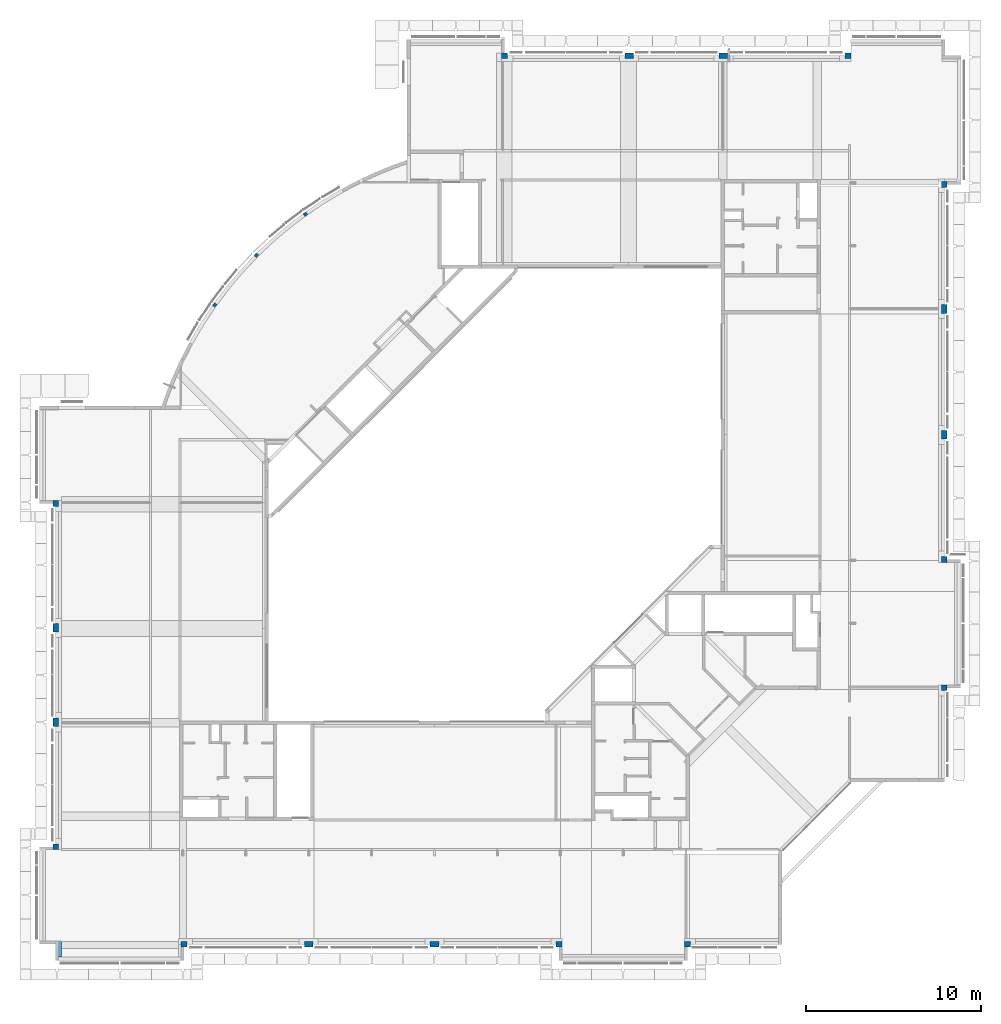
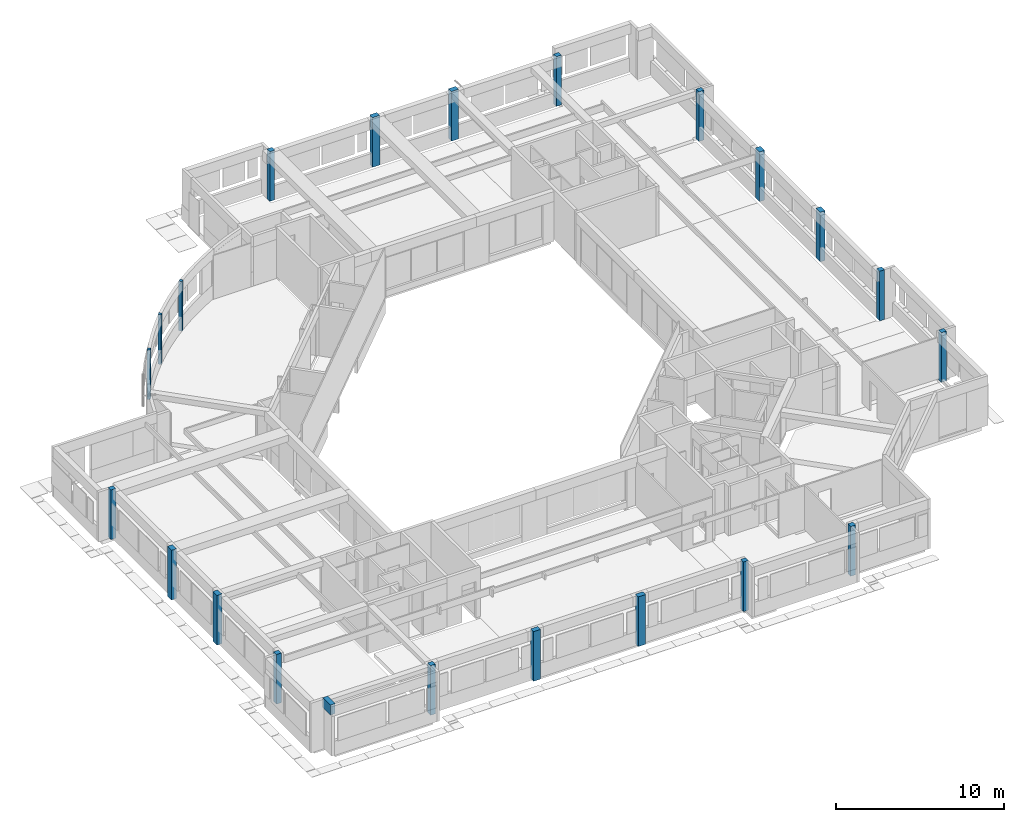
# One storey, part 1 of 26: 21 columns, 1 beam.
"""IFC4X3_ADD2 building model written with IfcOpenShell, lengths in millimetres."""

from ifc_helpers import new_model, si_unit, direction, frame, origin_with_axes, origin_2d_with_axis, place, context, subcontext, project, spatial, rectangle, extrude, source, transform, mapped, material, type_object, type_shapes, element, save


model = new_model("IFC4X3_ADD2")

# Units and contexts
model_context = context("Model", 3, precision=1e-05, world=origin_with_axes(), true_north=direction((0.0, 1.0)))
body_context = subcontext(model_context, "Body", "Model", "MODEL_VIEW")
ifc_project = project(units=[si_unit("LENGTHUNIT", "METRE", prefix="MILLI"), si_unit("AREAUNIT", "SQUARE_METRE"), si_unit("VOLUMEUNIT", "CUBIC_METRE"), si_unit("PLANEANGLEUNIT", "RADIAN"), si_unit("TIMEUNIT", "SECOND"), si_unit("MASSUNIT", "GRAM")], contexts=[model_context])

# Site, building, storey
site_placement = place(None, origin_with_axes())
site = spatial("IfcSite", under=ifc_project, at=site_placement, Name="Site", CompositionType="ELEMENT")
building_placement = place(site_placement, origin_with_axes())
building = spatial("IfcBuilding", under=site, at=building_placement, Name="IFC Building Story")
storey_placement = place(building_placement, frame((0.0, 0.0, 7200.0), z_axis=(0.0, 0.0, 1.0), x_axis=(1.0, 0.0, 0.0)))
storey = spatial("IfcBuildingStorey", under=building, at=storey_placement, Name="020", Elevation=7200.0)

# Columns
ifc_material = material(Name="BB_Beton_Bestaand")
column_type_1 = type_object("IfcColumnType", Name="BB_XX_Kolom_ rechthoekig_ center-center_GTL_340 mm x 340 mm33", PredefinedType="NOTDEFINED")
shared_shape_1 = source(origin_with_axes(), body_context, "Body", "SweptSolid", [
    extrude(rectangle(XDim=340.0, YDim=340.0, at=origin_2d_with_axis()), frame((-50775.0, 5505.0, 7000.0), z_axis=(0.0, 0.0, 1.0), x_axis=(1.0, 0.0, 0.0)), (0.0, 0.0, 1.0), 3600.0),
])
type_shapes(column_type_1, [shared_shape_1])
column_1_placement = place(storey_placement, frame((0.0, 0.0, -7200.0), z_axis=(0.0, 0.0, 1.0), x_axis=(1.0, 0.0, 0.0)))
element("IfcColumn", 1, at=column_1_placement, inside=storey, type_object=column_type_1, material=ifc_material, Name="BB_XX_Kolom, rechthoekig, center-center_GTL:340 mm x 340 mm", ObjectType="340 mm x 340 mm", PredefinedType="COLUMN", context=body_context, shape_type="MappedRepresentation", body=[
    mapped(shared_shape_1, transform((0.0, 0.0, 0.0))),
])
column_type_2 = type_object("IfcColumnType", Name="BB_XX_Kolom_ rechthoekig_ center-center_GTL_490 mm x 340 mm19", PredefinedType="NOTDEFINED")
shared_shape_2 = source(origin_with_axes(), body_context, "Body", "SweptSolid", [
    extrude(rectangle(XDim=490.0, YDim=340.0, at=origin_2d_with_axis()), frame((0.0, 0.0, 7000.0), z_axis=(0.0, 0.0, 1.0), x_axis=(1.0, 0.0, 0.0)), (0.0, 0.0, 1.0), 3600.0),
])
type_shapes(column_type_2, [shared_shape_2])
for number, where, z_axis, x_axis in (
    (2, (-50775.0, 12630.0, -7200.0), (0.0, 0.0, 1.0), (0.0, 1.0, 0.0)),
    (3, (-50775.0, 18030.0, -7200.0), (0.0, 0.0, 1.0), (0.0, 1.0, 0.0)),
    (4, (-36300.0, -75.0, -7200.0), (0.0, 0.0, 1.0), (1.0, 0.0, 0.0)),
    (5, (-29100.0, -75.0, -7200.0), (0.0, 0.0, 1.0), (1.0, 0.0, 0.0)),
    (6, (75.0, 29080.0, -7200.0), (0.0, 0.0, 1.0), (0.0, 1.0, 0.0)),
    (7, (75.0, 36280.0, -7200.0), (0.0, 0.0, 1.0), (0.0, 1.0, 0.0)),
    (8, (-12565.0, 50775.0, -7200.0), (0.0, 0.0, 1.0), (1.0, 0.0, 0.0)),
    (9, (-17965.0, 50775.0, -7200.0), (0.0, 0.0, 1.0), (1.0, 0.0, 0.0)),
):
    element("IfcColumn", number, at=place(storey_placement, frame(where, z_axis=z_axis, x_axis=x_axis)), inside=storey, type_object=column_type_2, material=ifc_material, Name="BB_XX_Kolom, rechthoekig, center-center_GTL:490 mm x 340 mm", ObjectType="490 mm x 340 mm", PredefinedType="COLUMN", context=body_context, shape_type="MappedRepresentation", body=[
        mapped(shared_shape_2, transform((0.0, 0.0, 0.0))),
    ])
column_type_3 = type_object("IfcColumnType", Name="BB_XX_Kolom_ rechthoekig_ center-center_GTL_340 mm x 340 mm35", PredefinedType="NOTDEFINED")
shared_shape_3 = source(origin_with_axes(), body_context, "Body", "SweptSolid", [
    extrude(rectangle(XDim=340.0, YDim=340.0, at=origin_2d_with_axis()), frame((-50775.0, 25155.0, 7000.0), z_axis=(0.0, 0.0, 1.0), x_axis=(1.0, 0.0, 0.0)), (0.0, 0.0, 1.0), 3600.0),
])
type_shapes(column_type_3, [shared_shape_3])
column_2_placement = place(storey_placement, frame((0.0, 0.0, -7200.0), z_axis=(0.0, 0.0, 1.0), x_axis=(1.0, 0.0, 0.0)))
element("IfcColumn", 10, at=column_2_placement, inside=storey, type_object=column_type_3, material=ifc_material, Name="BB_XX_Kolom, rechthoekig, center-center_GTL:340 mm x 340 mm", ObjectType="340 mm x 340 mm", PredefinedType="COLUMN", context=body_context, shape_type="MappedRepresentation", body=[
    mapped(shared_shape_3, transform((0.0, 0.0, 0.0))),
])
column_type_4 = type_object("IfcColumnType", Name="BB_XX_Kolom_ rechthoekig_ center-center_GTL_340 mm x 340 mm37", PredefinedType="NOTDEFINED")
shared_shape_4 = source(origin_with_axes(), body_context, "Body", "SweptSolid", [
    extrude(rectangle(XDim=340.0, YDim=340.000000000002, at=origin_2d_with_axis()), frame((0.0, 0.0, 7000.0), z_axis=(0.0, 0.0, 1.0), x_axis=(1.0, 0.0, 0.0)), (0.0, 0.0, 1.0), 3600.0),
])
type_shapes(column_type_4, [shared_shape_4])
for number, where, z_axis, x_axis in (
    (11, (-43425.0, -75.0, -7200.0), (0.0, 0.0, 1.0), (1.0, 0.0, 0.0)),
    (12, (-21975.0, -75.0, -7200.0), (0.0, 0.0, 1.0), (1.0, 0.0, 0.0)),
    (13, (-14625.0, -75.0, -7200.0), (0.0, 0.0, 1.0), (1.0, 0.0, 0.0)),
    (14, (75.0, 14605.0, -7200.0), (0.0, 0.0, 1.0), (1.0, 0.0, 0.0)),
    (15, (75.0, 21955.0, -7200.0), (0.0, 0.0, 1.0), (1.0, 0.0, 0.0)),
    (16, (75.0, 43405.0, -7200.0), (0.0, 0.0, 1.0), (1.0, 0.0, 0.0)),
):
    element("IfcColumn", number, at=place(storey_placement, frame(where, z_axis=z_axis, x_axis=x_axis)), inside=storey, type_object=column_type_4, material=ifc_material, Name="BB_XX_Kolom, rechthoekig, center-center_GTL:340 mm x 340 mm", ObjectType="340 mm x 340 mm", PredefinedType="COLUMN", context=body_context, shape_type="MappedRepresentation", body=[
        mapped(shared_shape_4, transform((0.0, 0.0, 0.0))),
    ])
column_type_5 = type_object("IfcColumnType", Name="BB_XX_Kolom_ rechthoekig_ center-center_GTL_340 mm x 340 mm39", PredefinedType="NOTDEFINED")
shared_shape_5 = source(origin_with_axes(), body_context, "Body", "SweptSolid", [
    extrude(rectangle(XDim=339.9999999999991, YDim=340.0000000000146, at=origin_2d_with_axis()), frame((-5439.999999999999, 50775.0, 7000.0), z_axis=(0.0, 0.0, 1.0), x_axis=(1.0, 0.0, 0.0)), (0.0, 0.0, 1.0), 3600.0),
])
type_shapes(column_type_5, [shared_shape_5])
column_3_placement = place(storey_placement, frame((0.0, 0.0, -7200.0), z_axis=(0.0, 0.0, 1.0), x_axis=(1.0, 0.0, 0.0)))
element("IfcColumn", 17, at=column_3_placement, inside=storey, type_object=column_type_5, material=ifc_material, Name="BB_XX_Kolom, rechthoekig, center-center_GTL:340 mm x 340 mm", ObjectType="340 mm x 340 mm", PredefinedType="COLUMN", context=body_context, shape_type="MappedRepresentation", body=[
    mapped(shared_shape_5, transform((0.0, 0.0, 0.0))),
])
column_type_6 = type_object("IfcColumnType", Name="BB_XX_Kolom_ rechthoekig_ center-center_GTL_340 mm x 340 mm41", PredefinedType="NOTDEFINED")
shared_shape_6 = source(origin_with_axes(), body_context, "Body", "SweptSolid", [
    extrude(rectangle(XDim=340.0, YDim=340.0000000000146, at=origin_2d_with_axis()), frame((-25090.0, 50775.0, 7000.0), z_axis=(0.0, 0.0, 1.0), x_axis=(1.0, 0.0, 0.0)), (0.0, 0.0, 1.0), 3600.0),
])
type_shapes(column_type_6, [shared_shape_6])
column_4_placement = place(storey_placement, frame((0.0, 0.0, -7200.0), z_axis=(0.0, 0.0, 1.0), x_axis=(1.0, 0.0, 0.0)))
element("IfcColumn", 18, at=column_4_placement, inside=storey, type_object=column_type_6, material=ifc_material, Name="BB_XX_Kolom, rechthoekig, center-center_GTL:340 mm x 340 mm", ObjectType="340 mm x 340 mm", PredefinedType="COLUMN", context=body_context, shape_type="MappedRepresentation", body=[
    mapped(shared_shape_6, transform((0.0, 0.0, 0.0))),
])
column_type_7 = type_object("IfcColumnType", Name="BB_XX_Kolom_ rechthoekig_ center-center_GTL_200 mm x 200 mm15", PredefinedType="NOTDEFINED")
shared_shape_7 = source(origin_with_axes(), body_context, "Body", "SweptSolid", [
    extrude(rectangle(XDim=200.0, YDim=200.0, at=origin_2d_with_axis()), frame((0.0, 0.0, 7000.0), z_axis=(0.0, 0.0, 1.0), x_axis=(1.0, 0.0, 0.0)), (0.0, 0.0, 1.0), 3600.0),
])
type_shapes(column_type_7, [shared_shape_7])
for number, where, z_axis, x_axis in (
    (19, (-39286.9435663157, 39343.9410409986, -7200.0), (0.0, 0.0, 1.0), (0.7071067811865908, -0.7071067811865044, 0.0)),
    (20, (-41680.5187786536, 36505.414971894, -7200.0), (0.0, 0.0, 1.0), (0.815127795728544, -0.5792811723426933, 0.0)),
    (21, (-36484.8978894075, 41707.7423259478, -7200.0), (0.0, 0.0, 1.0), (0.5735764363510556, -0.8191520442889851, 0.0)),
):
    element("IfcColumn", number, at=place(storey_placement, frame(where, z_axis=z_axis, x_axis=x_axis)), inside=storey, type_object=column_type_7, material=ifc_material, Name="BB_XX_Kolom, rechthoekig, center-center_GTL:200 mm x 200 mm", ObjectType="200 mm x 200 mm", PredefinedType="COLUMN", context=body_context, shape_type="MappedRepresentation", body=[
        mapped(shared_shape_7, transform((0.0, 0.0, 0.0))),
    ])

# Beam
beam_type = type_object("IfcBeamType", Name="BB_XX_Betonbalk_ rechthoekig_ center-center_SFB_340 x 720 mm151", PredefinedType="NOTDEFINED")
shared_shape_8 = source(origin_with_axes(), body_context, "Body", "SweptSolid", [
    extrude(rectangle(XDim=900.000000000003, YDim=340.0, at=origin_2d_with_axis()), frame((-5.002220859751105e-12, 0.0, -360.0), z_axis=(0.0, 0.0, 1.0), x_axis=(1.0, 0.0, 0.0)), (0.0, 0.0, 1.0), 720.0),
])
type_shapes(beam_type, [shared_shape_8])
beam_placement = place(storey_placement, frame((-50625.0, -355.0, 3040.0), z_axis=(0.0, 0.0, 1.0), x_axis=(0.0, 1.0, 0.0)))
element("IfcBeam", 22, at=beam_placement, inside=storey, type_object=beam_type, material=ifc_material, Name="BB_XX_Betonbalk, rechthoekig, center-center_SFB:340 x 720 mm", ObjectType="340 x 720 mm", PredefinedType="BEAM", context=body_context, shape_type="MappedRepresentation", body=[
    mapped(shared_shape_8, transform((0.0, 0.0, 0.0))),
])

save(model, "model.ifc")
